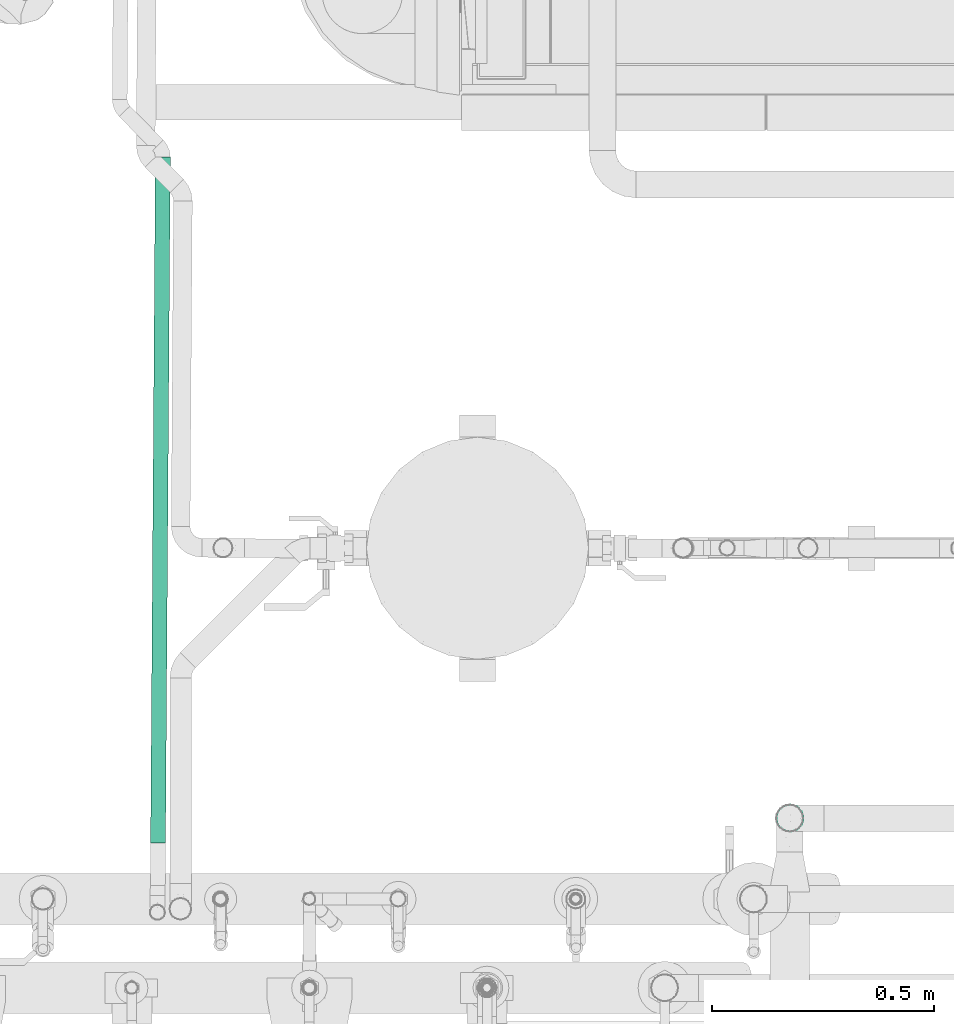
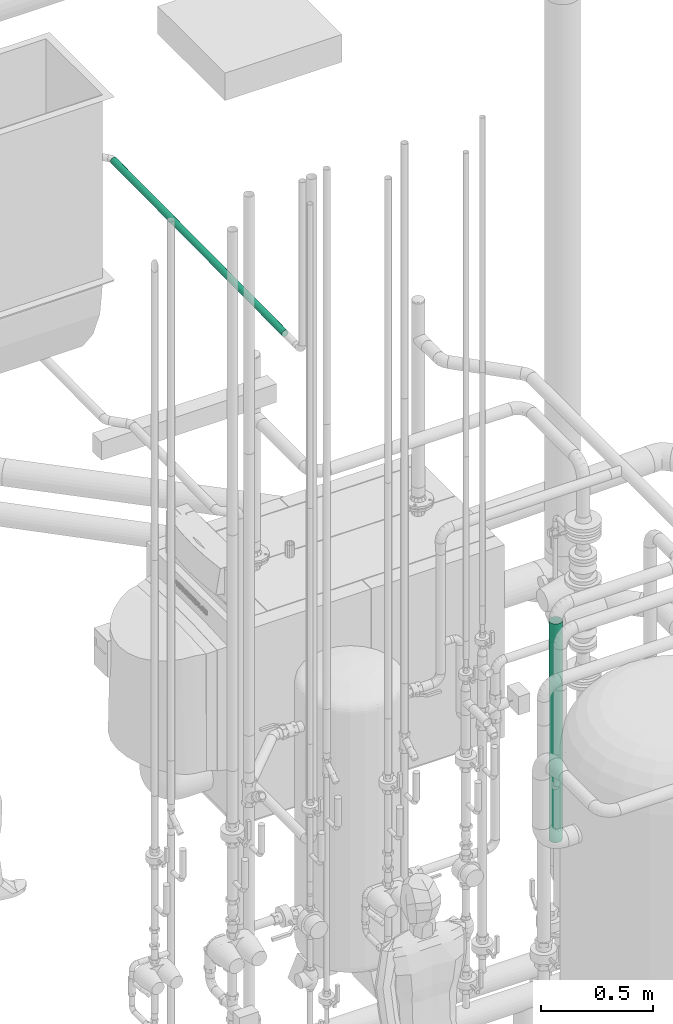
# One storey, part 214 of 374: 2 flow segments.
"""IFC2X3 building model written with IfcOpenShell, lengths in metres."""

from ifc_helpers import new_model, si_unit, direction, origin, place, context, subcontext, project, spatial, open_shell, surface_model, source, transform, mapped, element, save


model = new_model("IFC2X3")

# Units and contexts
model_context = context("Model", 3, precision=1e-05, world=origin(), true_north=direction((-0.4480736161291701, 0.8939966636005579)))
body_context = subcontext(model_context, "Body", "Model", "MODEL_VIEW")
ifc_project = project(units=[si_unit("LENGTHUNIT", "METRE"), si_unit("AREAUNIT", "SQUARE_METRE"), si_unit("VOLUMEUNIT", "CUBIC_METRE"), si_unit("PLANEANGLEUNIT", "RADIAN"), si_unit("THERMODYNAMICTEMPERATUREUNIT", "KELVIN"), si_unit("MASSUNIT", "GRAM", prefix="KILO"), si_unit("TIMEUNIT", "SECOND")], contexts=[model_context])

# Site, building, storey
site_placement = place(None, origin())
site = spatial("IfcSite", under=ifc_project, at=site_placement, Name="Site 1", CompositionType="ELEMENT")
building_placement = place(site_placement, origin())
building = spatial("IfcBuilding", under=site, at=building_placement, Name="Undefined", CompositionType="ELEMENT")
storey_placement = place(building_placement, origin())
storey = spatial("IfcBuildingStorey", under=building, at=storey_placement, Name="Rez de chauss\x8ee", CompositionType="ELEMENT", Elevation=0.0)

# Flow segments
shared_shape_1 = source(origin(), body_context, "Body", "SurfaceModel", [
    surface_model("IfcFaceBasedSurfaceModel", [(1.188302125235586, -1.776356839e-15, 0.0), (1.188302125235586, 0.00787072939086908, 0.0), (0.0, 0.007870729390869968, 7.105427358e-15), (0.0, 0.0, 0.0), (1.188302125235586, 0.015473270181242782, -0.0020370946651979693), (0.0, 0.015473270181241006, -0.0020370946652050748), (1.188302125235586, 0.022289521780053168, -0.005972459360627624), (0.0, 0.022289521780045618, -0.005972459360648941), (1.188302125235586, 0.02785496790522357, -0.011537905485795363), (0.0, 0.02785496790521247, -0.01153790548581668), (1.188302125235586, 0.03179033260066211, -0.018354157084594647), (0.0, 0.0317903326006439, -0.01835415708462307), (1.188302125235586, 0.0338274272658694, -0.02595669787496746), (0.0, 0.0338274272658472, -0.025956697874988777), (1.188302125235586, 0.03382742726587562, -0.033827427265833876), (0.0, 0.033827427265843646, -0.0338274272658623), (1.188302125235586, 0.031790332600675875, -0.041429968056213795), (0.0, 0.031790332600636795, -0.04142996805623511), (1.188302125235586, 0.02785496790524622, -0.04824621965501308), (0.0, 0.027854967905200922, -0.048246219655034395), (1.1883021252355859, 0.022289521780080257, -0.05381166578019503), (0.0, 0.022289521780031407, -0.05381166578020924), (1.188302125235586, 0.0154732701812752, -0.05774703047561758), (0.0, 0.015473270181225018, -0.057747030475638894), (1.188302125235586, 0.007870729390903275, -0.05978412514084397), (0.0, 0.007870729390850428, -0.05978412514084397), (1.188302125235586, 3.4194869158e-14, -0.05978412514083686), (0.0, -1.7763568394e-14, -0.05978412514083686), (1.1883021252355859, -0.007602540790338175, -0.057747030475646), (0.0, -0.007602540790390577, -0.05774703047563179), (1.188302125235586, -0.01441879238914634, -0.05381166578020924), (0.0, -0.01441879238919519, -0.05381166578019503), (1.188302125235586, -0.01998423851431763, -0.048246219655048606), (0.0, -0.019984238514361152, -0.04824621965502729), (1.188302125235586, -0.023919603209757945, -0.04142996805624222), (0.0, -0.02391960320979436, -0.041429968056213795), (1.188302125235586, -0.025956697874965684, -0.03382742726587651), (0.0, -0.025956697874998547, -0.03382742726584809), (1.188302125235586, -0.025956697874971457, -0.025956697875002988), (0.0, -0.025956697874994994, -0.025956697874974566), (1.188302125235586, -0.023919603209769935, -0.018354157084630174), (0.0, -0.023919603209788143, -0.018354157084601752), (1.188302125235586, -0.019984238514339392, -0.011537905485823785), (0.0, -0.019984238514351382, -0.011537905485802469), (1.188302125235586, -0.01441879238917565, -0.005972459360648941), (0.0, -0.01441879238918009, -0.00597245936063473), (1.188302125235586, -0.0076025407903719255, -0.00203709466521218), (0.0, -0.00760254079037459, -0.0020370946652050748)], [open_shell([[[0, 1, 2, 3]], [[1, 4, 5, 2]], [[4, 6, 7, 5]], [[6, 8, 9, 7]], [[8, 10, 11, 9]], [[10, 12, 13, 11]], [[12, 14, 15, 13]], [[14, 16, 17, 15]], [[16, 18, 19, 17]], [[18, 20, 21, 19]], [[20, 22, 23, 21]], [[22, 24, 25, 23]], [[24, 26, 27, 25]], [[26, 28, 29, 27]], [[28, 30, 31, 29]], [[30, 32, 33, 31]], [[32, 34, 35, 33]], [[34, 36, 37, 35]], [[36, 38, 39, 37]], [[38, 40, 41, 39]], [[40, 42, 43, 41]], [[42, 44, 45, 43]], [[44, 46, 47, 45]], [[46, 0, 3, 47]]])]),
])
flow_segment_1_placement = place(storey_placement, origin())
element("IfcFlowSegment", 1, at=flow_segment_1_placement, inside=storey, Name="Tube acier d'après DIN 2448", ObjectType="Tube acier d'après DIN 2448", context=body_context, shape_type="MappedRepresentation", body=[
    mapped(shared_shape_1, transform((54.30941382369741, 11.100062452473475, 1.9841043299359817), x_axis=(-0.0005979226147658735, 0.0, -0.9999998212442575), y_axis=(0.13052616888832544, -0.991444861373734, -7.804456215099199e-05), z_axis=(-0.9914446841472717, -0.1305261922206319, 0.0005928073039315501))),
])
shared_shape_2 = source(origin(), body_context, "Body", "SurfaceModel", [
    surface_model("IfcFaceBasedSurfaceModel", [(0.0, 0.004398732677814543, 0.0), (0.0, 0.0, 0.0), (1.543700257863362, 0.0, -8.8817842e-16), (1.5437002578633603, 0.004398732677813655, -8.8817842e-16), (0.0, -0.004248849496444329, -0.00113847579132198), (1.543700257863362, -0.00424884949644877, -0.0011384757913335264), (0.0, -0.008058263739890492, -0.003337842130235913), (1.5437002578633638, -0.008058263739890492, -0.00333784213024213), (0.0, -0.01116863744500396, -0.0064482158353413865), (1.543700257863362, -0.011168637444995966, -0.0064482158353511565), (0.0, -0.013368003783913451, -0.010257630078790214), (1.543700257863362, -0.013368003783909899, -0.01025763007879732), (0.0, -0.014506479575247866, -0.014506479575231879), (1.543700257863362, -0.014506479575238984, -0.014506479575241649), (0.0, -0.01450647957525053, -0.01890521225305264), (1.543700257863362, -0.01450647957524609, -0.01890521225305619), (0.0, -0.013368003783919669, -0.023154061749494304), (1.543700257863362, -0.013368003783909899, -0.02315406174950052), (0.0, -0.011168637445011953, -0.02696347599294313), (1.5437002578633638, -0.011168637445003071, -0.026963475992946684), (0.0, -0.008058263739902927, -0.03007384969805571), (1.543700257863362, -0.008058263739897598, -0.03007384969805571), (0.0, -0.004248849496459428, -0.03227321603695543), (1.543700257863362, -0.00424884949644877, -0.032273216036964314), (0.0, -1.5099033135e-14, -0.03341169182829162), (1.5437002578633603, 0.0, -0.03341169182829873), (0.0, 0.00439873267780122, -0.03341169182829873), (1.5437002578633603, 0.004398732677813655, -0.03341169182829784), (0.0, 0.008647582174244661, -0.03227321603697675), (1.543700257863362, 0.00864758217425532, -0.0322732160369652), (0.0, 0.012456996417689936, -0.030073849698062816), (1.543700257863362, 0.012456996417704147, -0.030073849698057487), (0.0, 0.01556737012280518, -0.026963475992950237), (1.543700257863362, 0.01556737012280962, -0.026963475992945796), (0.0, 0.017766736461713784, -0.023154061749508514), (1.543700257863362, 0.017766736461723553, -0.02315406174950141), (0.0, 0.018905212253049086, -0.01890521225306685), (1.5437002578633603, 0.018905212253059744, -0.01890521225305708), (0.0, 0.018905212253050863, -0.01450647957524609), (1.543700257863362, 0.018905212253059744, -0.014506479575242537), (0.0, 0.01776673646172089, -0.01025763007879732), (1.543700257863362, 0.017766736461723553, -0.010257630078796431), (0.0, 0.015567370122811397, -0.006448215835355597), (1.543700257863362, 0.015567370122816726, -0.006448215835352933), (0.0, 0.012456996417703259, -0.0033378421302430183), (1.543700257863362, 0.012456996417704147, -0.0033378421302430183), (0.0, 0.00864758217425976, -0.0011384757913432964), (1.5437002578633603, 0.008647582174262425, -0.0011384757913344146)], [open_shell([[[0, 1, 2, 3]], [[1, 4, 5, 2]], [[4, 6, 7, 5]], [[6, 8, 9, 7]], [[8, 10, 11, 9]], [[10, 12, 13, 11]], [[12, 14, 15, 13]], [[14, 16, 17, 15]], [[16, 18, 19, 17]], [[18, 20, 21, 19]], [[20, 22, 23, 21]], [[22, 24, 25, 23]], [[24, 26, 27, 25]], [[26, 28, 29, 27]], [[28, 30, 31, 29]], [[30, 32, 33, 31]], [[32, 34, 35, 33]], [[34, 36, 37, 35]], [[36, 38, 39, 37]], [[38, 40, 41, 39]], [[40, 42, 43, 41]], [[42, 44, 45, 43]], [[44, 46, 47, 45]], [[46, 0, 3, 47]]])]),
])
flow_segment_2_placement = place(storey_placement, origin())
element("IfcFlowSegment", 2, at=flow_segment_2_placement, inside=storey, Name="Tube acier d'après DIN 2448", ObjectType="Tube acier d'après DIN 2448", context=body_context, shape_type="MappedRepresentation", body=[
    mapped(shared_shape_2, transform((52.93180299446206, 12.58845700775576, 4.058034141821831), x_axis=(-0.00698126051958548, -0.9999756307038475, 0.0), y_axis=(-0.991420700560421, 0.0069215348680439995, -0.13052619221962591), z_axis=(0.13052301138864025, -0.0009112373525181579, -0.9914448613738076))),
])

save(model, "model.ifc")
